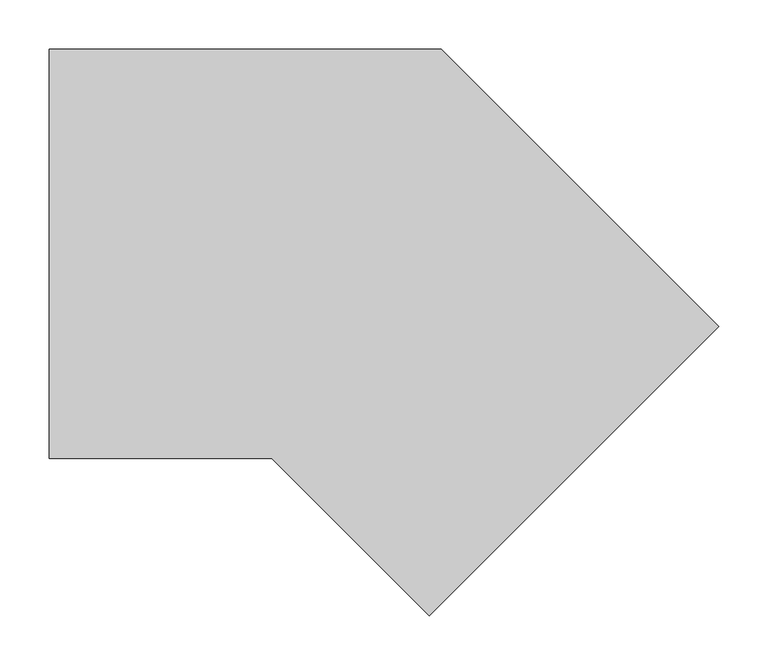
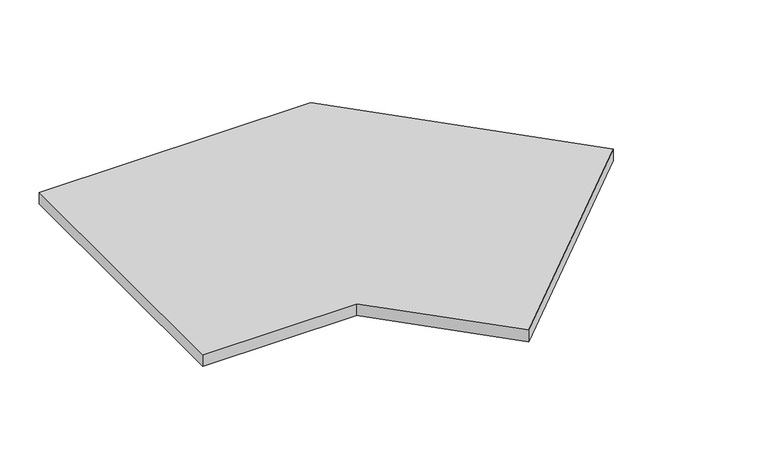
"""IFC4 building model written with IfcOpenShell, lengths in millimetres: proxy geometry, TECHNO_Решетка_KVU : Решетка рулонная алюминиевая/ Белый RAL 9016."""

from ifc_helpers import new_model, si_unit, frame, origin, place, context, project, spatial, polyline, outline, extrude, source, transform, mapped, element, save


def mechanical_equipment_f14935d1(model_context):
    return source(origin(), model_context, "Body", "SweptSolid", [
        extrude(outline(polyline([(369.4032965, -74.1155047), (74.1155047, -369.4032965), (-86.4877918, -208.8), (-313.6151519, -208.8), (-313.6151519, 208.8), (86.4877918, 208.8), (369.4032965, -74.1155047)])), frame((0.0, 0.0, -18.1), z_axis=(0.0, 0.0, 1.0), x_axis=(1.0, 0.0, 0.0)), (0.0, 0.0, 1.0), 18.1),
    ])


if __name__ == "__main__":
    model = new_model("IFC4")
    model_context = context("Model", 3, world=origin())
    ifc_project = project(units=[si_unit("LENGTHUNIT", "METRE", prefix="MILLI")], contexts=[model_context])
    site = spatial("IfcSite", under=ifc_project)
    building = spatial("IfcBuilding", under=site)
    placement = place(None, origin())
    mechanical_equipment_shape = mechanical_equipment_f14935d1(model_context)
    element("IfcBuildingElementProxy", 1, Name="TECHNO_Решетка_KVU : Решетка рулонная алюминиевая/ Белый RAL 9016", ObjectType="TECHNO_Решетка_KVU : Решетка рулонная алюминиевая/ Белый RAL 9016", at=placement, inside=building, context=model_context, shape_type="MappedRepresentation", body=[
        mapped(mechanical_equipment_shape, transform((0.0, 0.0, 0.0), x_axis=(1.0, 0.0, 0.0), y_axis=(0.0, 1.0, 0.0), z_axis=(0.0, 0.0, 1.0))),
    ])
    save(model, "model.ifc")
